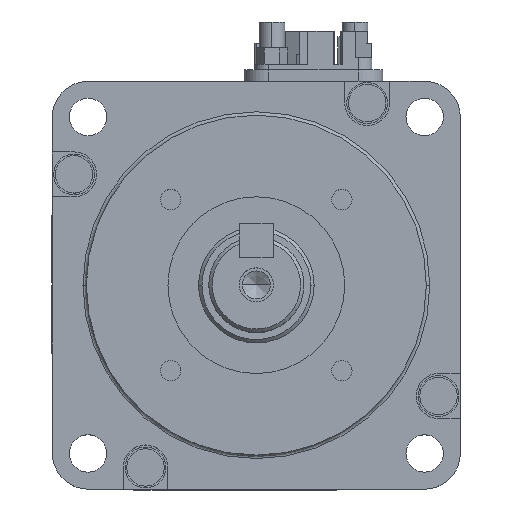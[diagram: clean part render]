
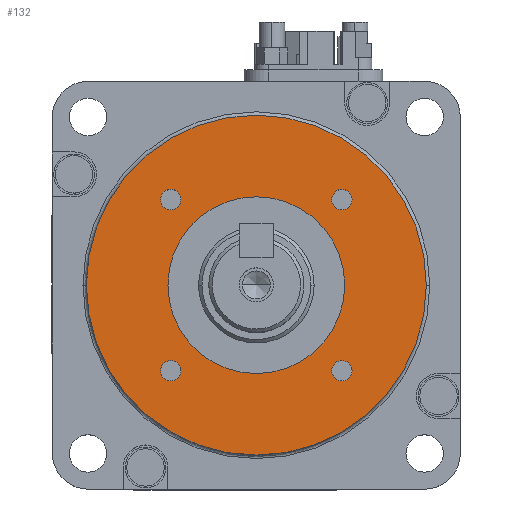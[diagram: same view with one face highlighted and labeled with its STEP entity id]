
A CAD part, top view. The second image highlights one B-rep face of the part: STEP entity #132.
In plain terms, the highlighted planar face has unit normal (0, 0, 1).
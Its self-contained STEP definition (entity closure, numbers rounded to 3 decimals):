
#132=ADVANCED_FACE('',(#768,#769,#770,#771,#772,#773),#767,.T.);
#767=PLANE('',#5197);
#768=FACE_OUTER_BOUND('',#5198,.T.);
#769=FACE_BOUND('',#5199,.T.);
#770=FACE_BOUND('',#5200,.T.);
#771=FACE_BOUND('',#5201,.T.);
#772=FACE_BOUND('',#5202,.T.);
#773=FACE_BOUND('',#5203,.T.);
#5194=CARTESIAN_POINT('',(-57.5,-51.962,3.));
#5195=DIRECTION('',(0.,0.,1.));
#5196=DIRECTION('',(1.,0.,0.));
#5197=AXIS2_PLACEMENT_3D('',#5194,#5195,#5196);
#5198=EDGE_LOOP('',(#7586,#7587));
#5199=EDGE_LOOP('',(#7588,#7589));
#5200=EDGE_LOOP('',(#7590,#7591));
#5201=EDGE_LOOP('',(#7592,#7593));
#5202=EDGE_LOOP('',(#7594,#7595));
#5203=EDGE_LOOP('',(#7596,#7597));
#7586=ORIENTED_EDGE('',*,*,#9939,.T.);
#7587=ORIENTED_EDGE('',*,*,#9940,.T.);
#7588=ORIENTED_EDGE('',*,*,#9941,.F.);
#7589=ORIENTED_EDGE('',*,*,#9942,.F.);
#7590=ORIENTED_EDGE('',*,*,#9943,.F.);
#7591=ORIENTED_EDGE('',*,*,#9944,.F.);
#7592=ORIENTED_EDGE('',*,*,#9945,.F.);
#7593=ORIENTED_EDGE('',*,*,#9946,.F.);
#7594=ORIENTED_EDGE('',*,*,#9947,.F.);
#7595=ORIENTED_EDGE('',*,*,#9948,.F.);
#7596=ORIENTED_EDGE('',*,*,#9949,.F.);
#7597=ORIENTED_EDGE('',*,*,#9950,.F.);
#9939=EDGE_CURVE('',#11816,#11817,#11818,.T.);
#9940=EDGE_CURVE('',#11817,#11816,#11824,.T.);
#9941=EDGE_CURVE('',#11830,#11831,#11832,.T.);
#9942=EDGE_CURVE('',#11831,#11830,#11838,.T.);
#9943=EDGE_CURVE('',#11844,#11845,#11846,.T.);
#9944=EDGE_CURVE('',#11845,#11844,#11852,.T.);
#9945=EDGE_CURVE('',#11858,#11859,#11860,.T.);
#9946=EDGE_CURVE('',#11859,#11858,#11866,.T.);
#9947=EDGE_CURVE('',#11872,#11873,#11874,.T.);
#9948=EDGE_CURVE('',#11873,#11872,#11880,.T.);
#9949=EDGE_CURVE('',#11886,#11887,#11888,.T.);
#9950=EDGE_CURVE('',#11887,#11886,#11894,.T.);
#11816=VERTEX_POINT('',#19484);
#11817=VERTEX_POINT('',#19485);
#11818=CIRCLE('',#19489,25.);
#11824=CIRCLE('',#19493,25.);
#11830=VERTEX_POINT('',#19494);
#11831=VERTEX_POINT('',#19495);
#11832=CIRCLE('',#19499,1.5);
#11838=CIRCLE('',#19503,1.5);
#11844=VERTEX_POINT('',#19504);
#11845=VERTEX_POINT('',#19505);
#11846=CIRCLE('',#19509,1.5);
#11852=CIRCLE('',#19513,1.5);
#11858=VERTEX_POINT('',#19514);
#11859=VERTEX_POINT('',#19515);
#11860=CIRCLE('',#19519,1.5);
#11866=CIRCLE('',#19523,1.5);
#11872=VERTEX_POINT('',#19524);
#11873=VERTEX_POINT('',#19525);
#11874=CIRCLE('',#19529,1.5);
#11880=CIRCLE('',#19533,1.5);
#11886=VERTEX_POINT('',#19534);
#11887=VERTEX_POINT('',#19535);
#11888=CIRCLE('',#19539,13.);
#11894=CIRCLE('',#19543,13.);
#19484=CARTESIAN_POINT('',(25.,0.,3.));
#19485=CARTESIAN_POINT('',(-25.,0.,3.));
#19486=CARTESIAN_POINT('',(0.,0.,3.));
#19487=DIRECTION('',(0.,0.,1.));
#19488=DIRECTION('',(1.,0.,0.));
#19489=AXIS2_PLACEMENT_3D('',#19486,#19487,#19488);
#19490=CARTESIAN_POINT('',(0.,0.,3.));
#19491=DIRECTION('',(0.,0.,1.));
#19492=DIRECTION('',(1.,0.,0.));
#19493=AXIS2_PLACEMENT_3D('',#19490,#19491,#19492);
#19494=CARTESIAN_POINT('',(11.087,-12.587,3.));
#19495=CARTESIAN_POINT('',(14.087,-12.587,3.));
#19496=CARTESIAN_POINT('',(12.587,-12.587,3.));
#19497=DIRECTION('',(0.,0.,1.));
#19498=DIRECTION('',(1.,0.,0.));
#19499=AXIS2_PLACEMENT_3D('',#19496,#19497,#19498);
#19500=CARTESIAN_POINT('',(12.587,-12.587,3.));
#19501=DIRECTION('',(0.,0.,1.));
#19502=DIRECTION('',(1.,0.,0.));
#19503=AXIS2_PLACEMENT_3D('',#19500,#19501,#19502);
#19504=CARTESIAN_POINT('',(-14.087,-12.587,3.));
#19505=CARTESIAN_POINT('',(-11.087,-12.587,3.));
#19506=CARTESIAN_POINT('',(-12.587,-12.587,3.));
#19507=DIRECTION('',(0.,0.,1.));
#19508=DIRECTION('',(1.,0.,0.));
#19509=AXIS2_PLACEMENT_3D('',#19506,#19507,#19508);
#19510=CARTESIAN_POINT('',(-12.587,-12.587,3.));
#19511=DIRECTION('',(0.,0.,1.));
#19512=DIRECTION('',(1.,0.,0.));
#19513=AXIS2_PLACEMENT_3D('',#19510,#19511,#19512);
#19514=CARTESIAN_POINT('',(-14.087,12.587,3.));
#19515=CARTESIAN_POINT('',(-11.087,12.587,3.));
#19516=CARTESIAN_POINT('',(-12.587,12.587,3.));
#19517=DIRECTION('',(0.,0.,1.));
#19518=DIRECTION('',(1.,0.,0.));
#19519=AXIS2_PLACEMENT_3D('',#19516,#19517,#19518);
#19520=CARTESIAN_POINT('',(-12.587,12.587,3.));
#19521=DIRECTION('',(0.,0.,1.));
#19522=DIRECTION('',(1.,0.,0.));
#19523=AXIS2_PLACEMENT_3D('',#19520,#19521,#19522);
#19524=CARTESIAN_POINT('',(11.087,12.587,3.));
#19525=CARTESIAN_POINT('',(14.087,12.587,3.));
#19526=CARTESIAN_POINT('',(12.587,12.587,3.));
#19527=DIRECTION('',(0.,0.,1.));
#19528=DIRECTION('',(1.,0.,0.));
#19529=AXIS2_PLACEMENT_3D('',#19526,#19527,#19528);
#19530=CARTESIAN_POINT('',(12.587,12.587,3.));
#19531=DIRECTION('',(0.,0.,1.));
#19532=DIRECTION('',(1.,0.,0.));
#19533=AXIS2_PLACEMENT_3D('',#19530,#19531,#19532);
#19534=CARTESIAN_POINT('',(-13.,0.,3.));
#19535=CARTESIAN_POINT('',(13.,0.,3.));
#19536=CARTESIAN_POINT('',(0.,0.,3.));
#19537=DIRECTION('',(0.,0.,1.));
#19538=DIRECTION('',(1.,0.,0.));
#19539=AXIS2_PLACEMENT_3D('',#19536,#19537,#19538);
#19540=CARTESIAN_POINT('',(0.,0.,3.));
#19541=DIRECTION('',(0.,0.,1.));
#19542=DIRECTION('',(1.,0.,0.));
#19543=AXIS2_PLACEMENT_3D('',#19540,#19541,#19542);
